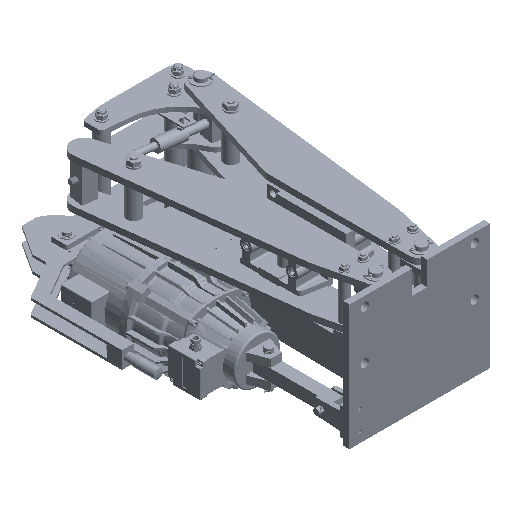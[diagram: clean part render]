
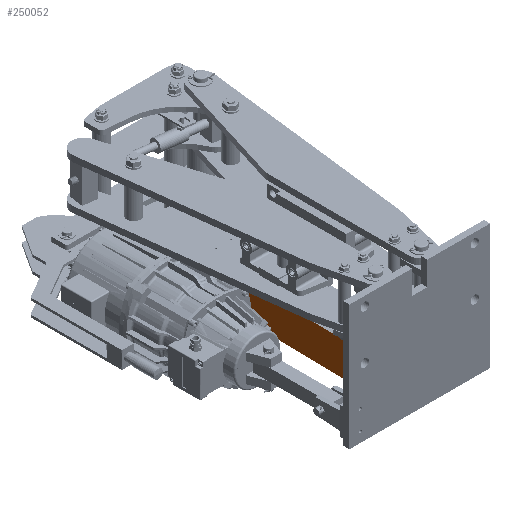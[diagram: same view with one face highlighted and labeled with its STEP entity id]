
A CAD part, isometric view. The second image highlights one B-rep face of the part: STEP entity #250052.
In plain terms, the highlighted planar face has unit normal (1, -0.021, 0).
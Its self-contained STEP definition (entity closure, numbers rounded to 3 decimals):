
#248952=DIRECTION('',(0.,0.,1.));
#248953=VECTOR('',#248952,110.);
#248954=CARTESIAN_POINT('',(115.822,1009.322,
-208.));
#248955=LINE('',#248954,#248953);
#249309=DIRECTION('',(-0.021,-1.,0.));
#249310=VECTOR('',#249309,835.);
#249311=CARTESIAN_POINT('',(115.822,1009.322,
-208.));
#249312=LINE('',#249311,#249310);
#249316=DIRECTION('',(0.021,1.,0.));
#249317=VECTOR('',#249316,835.);
#249318=CARTESIAN_POINT('',(98.189,174.508,
-98.));
#249319=LINE('',#249318,#249317);
#249330=DIRECTION('',(0.,0.,1.));
#249331=VECTOR('',#249330,110.);
#249332=CARTESIAN_POINT('',(98.189,174.508,
-208.));
#249333=LINE('',#249332,#249331);
#249854=CARTESIAN_POINT('',(115.822,1009.322,
-208.));
#249856=VERTEX_POINT('',#249854);
#249857=CARTESIAN_POINT('',(98.189,174.508,
-208.));
#249858=VERTEX_POINT('',#249857);
#249865=CARTESIAN_POINT('',(115.822,1009.322,
-98.));
#249866=VERTEX_POINT('',#249865);
#249867=CARTESIAN_POINT('',(98.189,174.508,
-98.));
#249868=VERTEX_POINT('',#249867);
#250040=CARTESIAN_POINT('',(107.006,591.915,
-153.));
#250041=DIRECTION('',(1.,-0.021,0.));
#250042=DIRECTION('',(0.021,1.,0.));
#250043=AXIS2_PLACEMENT_3D('',#250040,#250041,#250042);
#250044=PLANE('',#250043);
#250045=ORIENTED_EDGE('',*,*,#249948,.F.);
#250046=ORIENTED_EDGE('',*,*,#249973,.T.);
#250048=ORIENTED_EDGE('',*,*,#250047,.T.);
#250049=ORIENTED_EDGE('',*,*,#250022,.T.);
#250050=EDGE_LOOP('',(#250045,#250046,#250048,#250049));
#250051=FACE_OUTER_BOUND('',#250050,.F.);
#250052=ADVANCED_FACE('',(#250051),#250044,.T.);
#249948=EDGE_CURVE('',#249856,#249866,#248955,.T.);
#249973=EDGE_CURVE('',#249856,#249858,#249312,.T.);
#250022=EDGE_CURVE('',#249868,#249866,#249319,.T.);
#250047=EDGE_CURVE('',#249858,#249868,#249333,.T.);
